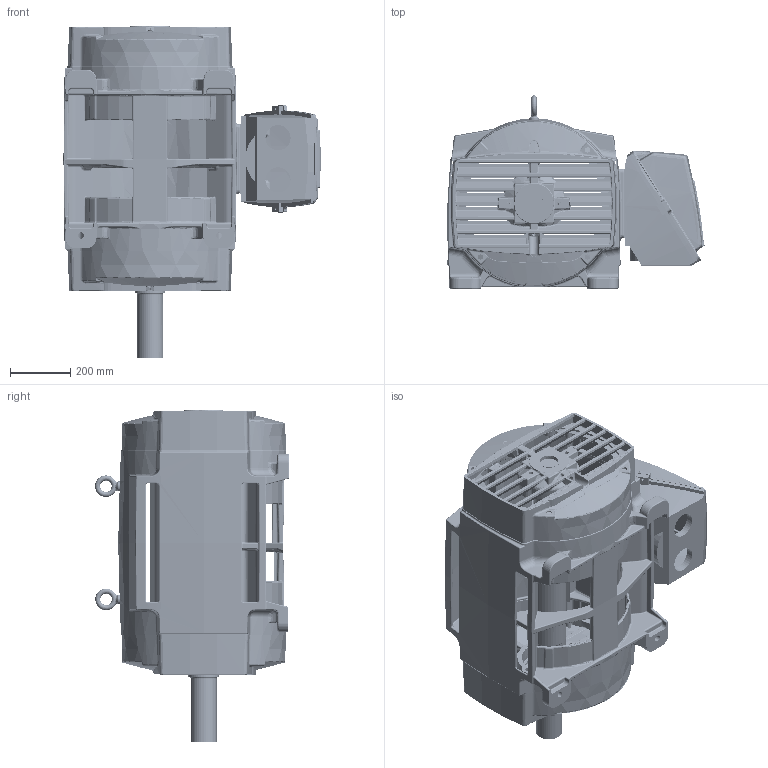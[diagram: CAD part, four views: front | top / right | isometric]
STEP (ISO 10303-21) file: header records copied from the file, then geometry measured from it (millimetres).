
FILE_DESCRIPTION((''),'2;1');
FILE_NAME('447_4POLE_ASM','2019-06-04T15:56:32',('EMD2341'),('Nidec Motor Corporation'),'CREO PARAMETRIC BY PTC INC, 2018300','CREO PARAMETRIC BY PTC INC, 2018300','');
FILE_SCHEMA(('CONFIG_CONTROL_DESIGN'));
Length unit declared in the file: inch
Products named in the file (10): 0185167; 0176020; 0176022; 0142469; 0479838; 0360117; 0189738-OBB; 0189734; 0013350; 447_4POLE_ASM
Assembly tree (10 placements, depth 2):
  447_4POLE_ASM
    0185167
    0176020
    0176022
    0142469
    0479838
    0360117
    0189738-OBB
    0189734
    0013350  x2
Bounding box: 851.58 x 642.11 x 1099.44 mm (x, y, z)
Volume: 43711310.2 mm3; surface area: 8371391.6 mm2
Topology: 12 solids, 49 shells, 7862 faces, 18769 edges, 10833 vertices
Faces by surface type: bspline 3672, cylinder 1589, plane 1053, torus 844, cone 393, sphere 301, revolution 10
Entity records: 382989 total; most frequent: CARTESIAN_POINT 228985, ORIENTED_EDGE 36981, DIRECTION 25919, EDGE_CURVE 18632, AXIS2_PLACEMENT_3D 11213, VERTEX_POINT 10792, B_SPLINE_CURVE_WITH_KNOTS 8137, EDGE_LOOP 7986
